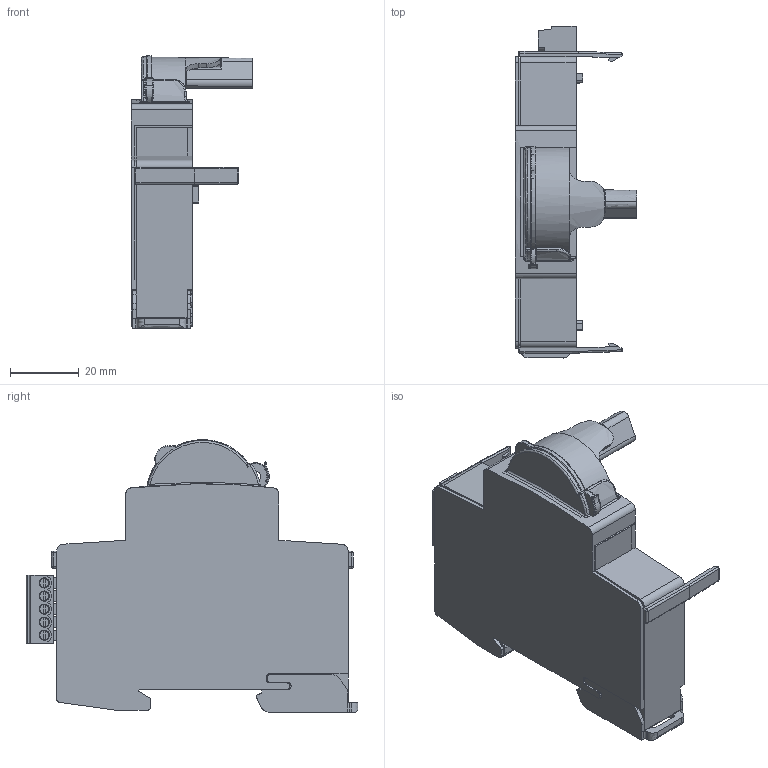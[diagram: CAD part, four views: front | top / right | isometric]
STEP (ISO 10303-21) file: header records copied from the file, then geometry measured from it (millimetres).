
FILE_DESCRIPTION(/* description */ (''),/* implementation_level */ '2;1');
FILE_NAME(/* name */ 'DFA3.stp',/* time_stamp */ '2023-02-06T08:41:01+01:00',/* author */ (''),/* organization */ (''),/* preprocessor_version */ 'ST-DEVELOPER v18.1',/* originating_system */ 'SIEMENS PLM Software NX 1961',/* authorisation */ '');
FILE_SCHEMA (('AUTOMOTIVE_DESIGN { 1 0 10303 214 3 1 1 1 }'));
Length unit declared in the file: millimetre
Products named in the file (2): K13316_001_1-4340028 Stecker 5pol. schwarz RM 3_81; K10259_001_1-DFA3
Assembly tree (1 placements, depth 2):
  K10259_001_1-DFA3
    K13316_001_1-4340028 Stecker 5pol. schwarz RM 3_81
Bounding box: 35.5 x 96.77 x 79.47 mm (x, y, z)
Volume: 89898.4 mm3; surface area: 21253.4 mm2
Topology: 3 solids, 3 shells, 691 faces, 1820 edges, 1144 vertices
Faces by surface type: bspline 456, plane 176, cylinder 51, sphere 8
Entity records: 22974 total; most frequent: CARTESIAN_POINT 10332, ORIENTED_EDGE 3600, EDGE_CURVE 1800, DIRECTION 1201, VERTEX_POINT 1144, B_SPLINE_CURVE_WITH_KNOTS 818, EDGE_LOOP 730, ADVANCED_FACE 691
